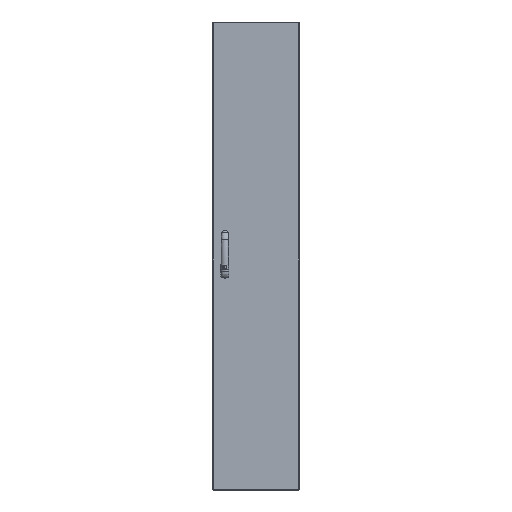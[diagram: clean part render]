
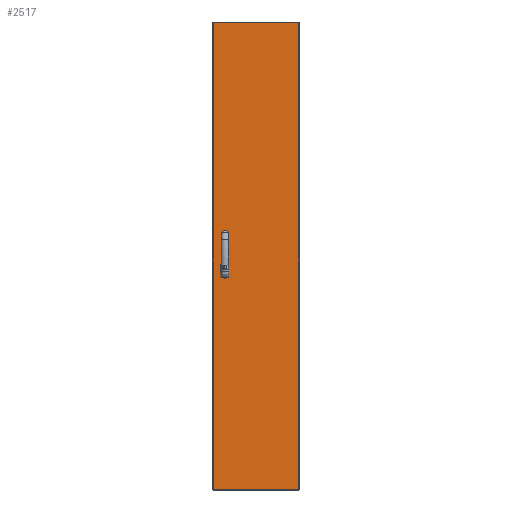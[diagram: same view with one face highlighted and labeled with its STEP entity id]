
A CAD part, top view. The second image highlights one B-rep face of the part: STEP entity #2517.
In plain terms, the highlighted planar face has unit normal (0, 0, 1).
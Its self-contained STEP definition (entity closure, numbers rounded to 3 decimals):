
#28 = VERTEX_POINT ( 'NONE', #8453 ) ;
#130 = DIRECTION ( 'NONE',  ( 1., 0., 0. ) ) ;
#154 = CARTESIAN_POINT ( 'NONE',  ( 3., 3., 19. ) ) ;
#285 = ORIENTED_EDGE ( 'NONE', *, *, #8011, .T. ) ;
#319 = FACE_OUTER_BOUND ( 'NONE', #466, .T. ) ;
#381 = ORIENTED_EDGE ( 'NONE', *, *, #5906, .T. ) ;
#406 = PLANE ( 'NONE',  #1359 ) ;
#412 = DIRECTION ( 'NONE',  ( 0., 1., 0. ) ) ;
#456 = CARTESIAN_POINT ( 'NONE',  ( 60.1, 1060.25, 19. ) ) ;
#466 = EDGE_LOOP ( 'NONE', ( #4170, #285, #381, #8172 ) ) ;
#482 = CARTESIAN_POINT ( 'NONE',  ( 50.6, 1060.25, 19. ) ) ;
#540 = EDGE_CURVE ( 'NONE', #5892, #7682, #8212, .T. ) ;
#587 = DIRECTION ( 'NONE',  ( 0., 0., 1. ) ) ;
#670 = VECTOR ( 'NONE', #4352, 1000. ) ;
#792 = CARTESIAN_POINT ( 'NONE',  ( 0., 3., 19. ) ) ;
#812 = CARTESIAN_POINT ( 'NONE',  ( 3., 1960., 19. ) ) ;
#840 = LINE ( 'NONE', #792, #4935 ) ;
#944 = VERTEX_POINT ( 'NONE', #6962 ) ;
#980 = VERTEX_POINT ( 'NONE', #154 ) ;
#1190 = ORIENTED_EDGE ( 'NONE', *, *, #7635, .F. ) ;
#1327 = CARTESIAN_POINT ( 'NONE',  ( 50.6, 899.75, 19. ) ) ;
#1359 = AXIS2_PLACEMENT_3D ( 'NONE', #5675, #5764, #6596 ) ;
#1589 = CARTESIAN_POINT ( 'NONE',  ( 41.1, 947.75, 19. ) ) ;
#1637 = CARTESIAN_POINT ( 'NONE',  ( 60.1, 947.75, 19. ) ) ;
#1834 = CIRCLE ( 'NONE', #3796, 9.5 ) ;
#1845 = DIRECTION ( 'NONE',  ( 1., 0., 0. ) ) ;
#1868 = VERTEX_POINT ( 'NONE', #5686 ) ;
#1890 = ORIENTED_EDGE ( 'NONE', *, *, #3541, .F. ) ;
#2024 = EDGE_CURVE ( 'NONE', #1868, #6034, #6558, .T. ) ;
#2172 = VERTEX_POINT ( 'NONE', #1589 ) ;
#2174 = LINE ( 'NONE', #5516, #7782 ) ;
#2276 = CARTESIAN_POINT ( 'NONE',  ( 60.1, 1060.25, 19. ) ) ;
#2373 = EDGE_CURVE ( 'NONE', #2172, #28, #5102, .T. ) ;
#2517 = ADVANCED_FACE ( 'NONE', ( #3654, #3733, #319 ), #406, .F. ) ;
#2559 = ORIENTED_EDGE ( 'NONE', *, *, #6024, .F. ) ;
#3159 = CARTESIAN_POINT ( 'NONE',  ( 359., 1957., 19. ) ) ;
#3221 = ORIENTED_EDGE ( 'NONE', *, *, #8645, .F. ) ;
#3229 = EDGE_LOOP ( 'NONE', ( #8038, #3221, #2559, #1890 ) ) ;
#3358 = DIRECTION ( 'NONE',  ( 1., 0., 0. ) ) ;
#3483 = CIRCLE ( 'NONE', #6155, 9.5 ) ;
#3541 = EDGE_CURVE ( 'NONE', #28, #4527, #3483, .T. ) ;
#3654 = FACE_BOUND ( 'NONE', #3229, .T. ) ;
#3733 = FACE_BOUND ( 'NONE', #8304, .T. ) ;
#3796 = AXIS2_PLACEMENT_3D ( 'NONE', #482, #5182, #1845 ) ;
#3835 = DIRECTION ( 'NONE',  ( 1., 0., 0. ) ) ;
#3885 = CARTESIAN_POINT ( 'NONE',  ( 60.1, 899.75, 19. ) ) ;
#3964 = DIRECTION ( 'NONE',  ( 0., 0., 1. ) ) ;
#3969 = CARTESIAN_POINT ( 'NONE',  ( 41.1, 1060.25, 19. ) ) ;
#4103 = CARTESIAN_POINT ( 'NONE',  ( 359., 3., 19. ) ) ;
#4138 = AXIS2_PLACEMENT_3D ( 'NONE', #7222, #3964, #3835 ) ;
#4170 = ORIENTED_EDGE ( 'NONE', *, *, #540, .T. ) ;
#4334 = EDGE_CURVE ( 'NONE', #6034, #7458, #8306, .T. ) ;
#4352 = DIRECTION ( 'NONE',  ( 0., -1., 0. ) ) ;
#4434 = CARTESIAN_POINT ( 'NONE',  ( 41.1, 947.75, 19. ) ) ;
#4442 = CARTESIAN_POINT ( 'NONE',  ( 60.1, 1012.25, 19. ) ) ;
#4527 = VERTEX_POINT ( 'NONE', #3885 ) ;
#4803 = LINE ( 'NONE', #812, #4908 ) ;
#4908 = VECTOR ( 'NONE', #6180, 1000. ) ;
#4935 = VECTOR ( 'NONE', #130, 1000. ) ;
#4959 = DIRECTION ( 'NONE',  ( 0., 1., 0. ) ) ;
#5102 = LINE ( 'NONE', #4434, #670 ) ;
#5144 = VERTEX_POINT ( 'NONE', #5927 ) ;
#5182 = DIRECTION ( 'NONE',  ( 0., 0., 1. ) ) ;
#5205 = LINE ( 'NONE', #3969, #8157 ) ;
#5246 = ORIENTED_EDGE ( 'NONE', *, *, #4334, .F. ) ;
#5516 = CARTESIAN_POINT ( 'NONE',  ( 0., 1957., 19. ) ) ;
#5614 = CARTESIAN_POINT ( 'NONE',  ( 359., 1960., 19. ) ) ;
#5675 = CARTESIAN_POINT ( 'NONE',  ( 0., 1960., 19. ) ) ;
#5686 = CARTESIAN_POINT ( 'NONE',  ( 41.1, 1012.25, 19. ) ) ;
#5764 = DIRECTION ( 'NONE',  ( 0., 0., -1. ) ) ;
#5847 = AXIS2_PLACEMENT_3D ( 'NONE', #6086, #587, #7214 ) ;
#5892 = VERTEX_POINT ( 'NONE', #4103 ) ;
#5906 = EDGE_CURVE ( 'NONE', #6138, #980, #4803, .T. ) ;
#5927 = CARTESIAN_POINT ( 'NONE',  ( 60.1, 947.75, 19. ) ) ;
#6024 = EDGE_CURVE ( 'NONE', #4527, #5144, #7628, .T. ) ;
#6034 = VERTEX_POINT ( 'NONE', #4442 ) ;
#6086 = CARTESIAN_POINT ( 'NONE',  ( 50.6, 1012.25, 19. ) ) ;
#6138 = VERTEX_POINT ( 'NONE', #7130 ) ;
#6155 = AXIS2_PLACEMENT_3D ( 'NONE', #1327, #8474, #3358 ) ;
#6180 = DIRECTION ( 'NONE',  ( 0., -1., 0. ) ) ;
#6232 = DIRECTION ( 'NONE',  ( -1., 0., 0. ) ) ;
#6558 = CIRCLE ( 'NONE', #5847, 9.5 ) ;
#6572 = DIRECTION ( 'NONE',  ( 0., -1., 0. ) ) ;
#6596 = DIRECTION ( 'NONE',  ( -1., 0., 0. ) ) ;
#6692 = ORIENTED_EDGE ( 'NONE', *, *, #2024, .F. ) ;
#6701 = VECTOR ( 'NONE', #7600, 1000. ) ;
#6962 = CARTESIAN_POINT ( 'NONE',  ( 41.1, 1060.25, 19. ) ) ;
#6980 = EDGE_CURVE ( 'NONE', #944, #1868, #5205, .T. ) ;
#7130 = CARTESIAN_POINT ( 'NONE',  ( 3., 1957., 19. ) ) ;
#7214 = DIRECTION ( 'NONE',  ( 1., 0., 0. ) ) ;
#7222 = CARTESIAN_POINT ( 'NONE',  ( 50.6, 947.75, 19. ) ) ;
#7458 = VERTEX_POINT ( 'NONE', #456 ) ;
#7569 = VECTOR ( 'NONE', #4959, 1000. ) ;
#7582 = VECTOR ( 'NONE', #412, 1000. ) ;
#7600 = DIRECTION ( 'NONE',  ( 0., 1., 0. ) ) ;
#7628 = LINE ( 'NONE', #1637, #7582 ) ;
#7635 = EDGE_CURVE ( 'NONE', #7458, #944, #1834, .T. ) ;
#7656 = CIRCLE ( 'NONE', #4138, 9.5 ) ;
#7682 = VERTEX_POINT ( 'NONE', #3159 ) ;
#7782 = VECTOR ( 'NONE', #6232, 1000. ) ;
#7834 = EDGE_CURVE ( 'NONE', #980, #5892, #840, .T. ) ;
#8011 = EDGE_CURVE ( 'NONE', #7682, #6138, #2174, .T. ) ;
#8038 = ORIENTED_EDGE ( 'NONE', *, *, #2373, .F. ) ;
#8083 = ORIENTED_EDGE ( 'NONE', *, *, #6980, .F. ) ;
#8157 = VECTOR ( 'NONE', #6572, 1000. ) ;
#8172 = ORIENTED_EDGE ( 'NONE', *, *, #7834, .T. ) ;
#8212 = LINE ( 'NONE', #5614, #6701 ) ;
#8304 = EDGE_LOOP ( 'NONE', ( #8083, #1190, #5246, #6692 ) ) ;
#8306 = LINE ( 'NONE', #2276, #7569 ) ;
#8453 = CARTESIAN_POINT ( 'NONE',  ( 41.1, 899.75, 19. ) ) ;
#8474 = DIRECTION ( 'NONE',  ( 0., 0., 1. ) ) ;
#8645 = EDGE_CURVE ( 'NONE', #5144, #2172, #7656, .T. ) ;
